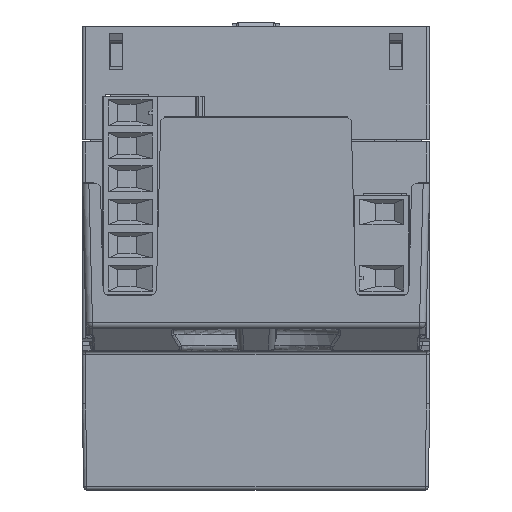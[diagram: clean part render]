
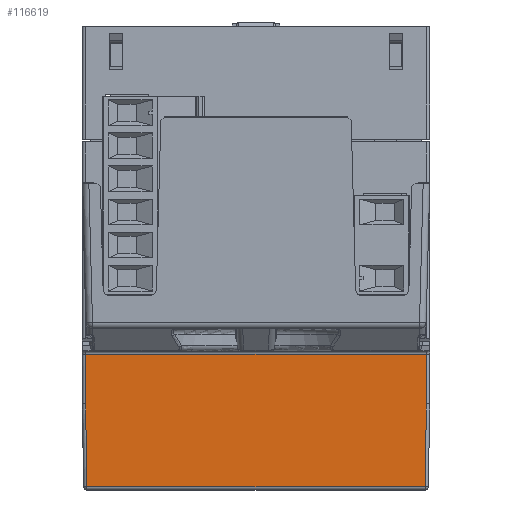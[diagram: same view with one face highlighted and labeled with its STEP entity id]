
A CAD part, front view. The second image highlights one B-rep face of the part: STEP entity #116619.
In plain terms, the highlighted planar face has unit normal (0, -1, -0.018).
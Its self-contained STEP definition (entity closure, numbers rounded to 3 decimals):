
#5979=CARTESIAN_POINT('',(-25.75,-22.5,
-40.));
#5984=DIRECTION('',(0.,0.017,-1.));
#5985=VECTOR('',#5984,7.51);
#5986=CARTESIAN_POINT('',(-25.75,-22.631,-32.491));
#5987=LINE('',#5986,#5985);
#15955=DIRECTION('',(1.,0.,0.));
#15956=VECTOR('',#15955,51.063);
#15957=CARTESIAN_POINT('',(-25.532,-22.282,
-52.509));
#15958=LINE('',#15957,#15956);
#15962=DIRECTION('',(-0.017,0.017,-1.));
#15963=VECTOR('',#15962,12.513);
#15964=CARTESIAN_POINT('',(25.75,-22.5,
-40.));
#15965=LINE('',#15964,#15963);
#15969=DIRECTION('',(-0.017,-0.017,1.));
#15970=VECTOR('',#15969,12.513);
#15971=CARTESIAN_POINT('',(-25.532,-22.282,
-52.509));
#15972=LINE('',#15971,#15970);
#15976=CARTESIAN_POINT('',(25.75,-22.5,
-40.));
#15997=DIRECTION('',(0.,-0.017,1.));
#15998=VECTOR('',#15997,7.51);
#15999=CARTESIAN_POINT('',(25.75,-22.5,
-40.));
#16000=LINE('',#15999,#15998);
#17266=DIRECTION('',(-1.,0.,0.));
#17267=VECTOR('',#17266,51.5);
#17268=CARTESIAN_POINT('',(25.75,-22.631,-32.491));
#17269=LINE('',#17268,#17267);
#95329=CARTESIAN_POINT('',(-25.75,-22.631,-32.491));
#95330=VERTEX_POINT('',#95329);
#95359=CARTESIAN_POINT('',(25.75,-22.631,-32.491));
#95360=VERTEX_POINT('',#95359);
#96100=CARTESIAN_POINT('',(-25.532,-22.282,
-52.509));
#96101=VERTEX_POINT('',#96100);
#96102=CARTESIAN_POINT('',(25.532,-22.282,
-52.509));
#96103=VERTEX_POINT('',#96102);
#96311=VERTEX_POINT('',#15976);
#96320=VERTEX_POINT('',#5979);
#116603=CARTESIAN_POINT('',(28.665,-22.5,-40.));
#116604=DIRECTION('',(0.,-1.,-0.017));
#116605=DIRECTION('',(-1.,0.,0.));
#116606=AXIS2_PLACEMENT_3D('',#116603,#116604,#116605);
#116607=PLANE('',#116606);
#116609=ORIENTED_EDGE('',*,*,#116608,.F.);
#116611=ORIENTED_EDGE('',*,*,#116610,.T.);
#116612=ORIENTED_EDGE('',*,*,#116596,.F.);
#116613=ORIENTED_EDGE('',*,*,#110299,.T.);
#116614=ORIENTED_EDGE('',*,*,#110316,.F.);
#116616=ORIENTED_EDGE('',*,*,#116615,.F.);
#116617=EDGE_LOOP('',(#116609,#116611,#116612,#116613,#116614,#116616));
#116618=FACE_OUTER_BOUND('',#116617,.F.);
#110299=EDGE_CURVE('',#96101,#96320,#15972,.T.);
#110316=EDGE_CURVE('',#95330,#96320,#5987,.T.);
#116596=EDGE_CURVE('',#96101,#96103,#15958,.T.);
#116608=EDGE_CURVE('',#96311,#95360,#16000,.T.);
#116610=EDGE_CURVE('',#96311,#96103,#15965,.T.);
#116615=EDGE_CURVE('',#95360,#95330,#17269,.T.);
#116619=ADVANCED_FACE('',(#116618),#116607,.T.);
